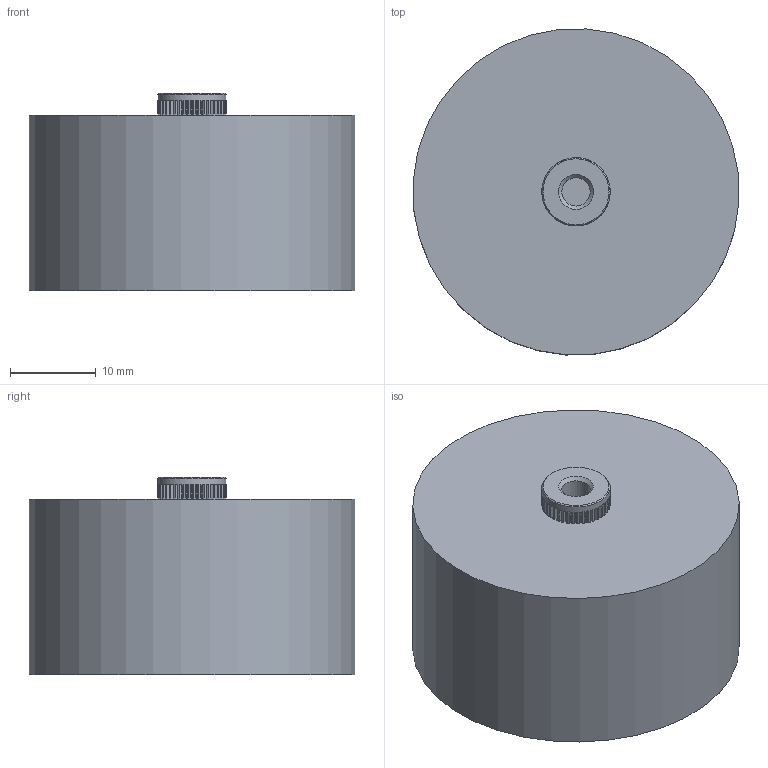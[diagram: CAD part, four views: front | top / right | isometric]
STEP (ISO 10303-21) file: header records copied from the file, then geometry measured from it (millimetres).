
FILE_DESCRIPTION((''),'2;1');
FILE_NAME('I:\Marketing\M6t1\M6T1 - Internal\Drawings\Werk 3\Finished product\Ceramite\Upload for homepage\715\715C###KT###\715C20KTD14.stp','2013-06-10T14:23:49',('sherden'),(''),'Autodesk Inventor 2013','Autodesk Inventor 2013','');
FILE_SCHEMA(('AUTOMOTIVE_DESIGN { 1 2 10303 214 0 1 1 1 }'));
Length unit declared in the file: millimetre
Products named in the file (1): 715C20KTD14
Bounding box: 37.92 x 37.92 x 23 mm (x, y, z)
Volume: 23235.3 mm3; surface area: 5063.3 mm2
Topology: 1 solids, 41 shells, 573 faces, 1419 edges, 932 vertices
Faces by surface type: plane 486, cylinder 84, cone 3
Full cylindrical faces by diameter (mm): 3.302 x2, 7.95 x1, 38 x1
Entity records: 17304 total; most frequent: CARTESIAN_POINT 2916, ORIENTED_EDGE 2822, DIRECTION 2810, EDGE_CURVE 1411, VECTOR 1160, LINE 1160, VERTEX_POINT 931, AXIS2_PLACEMENT_3D 825
